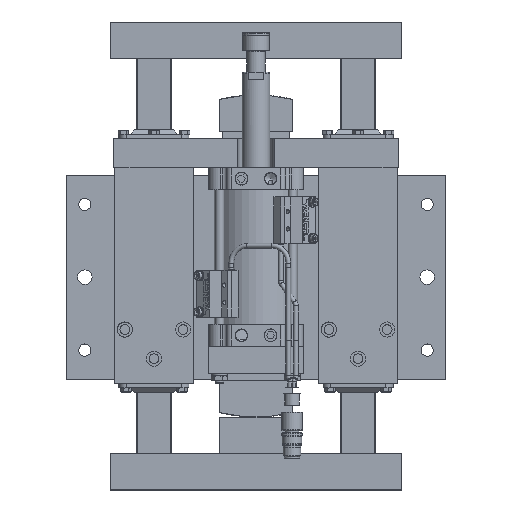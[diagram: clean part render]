
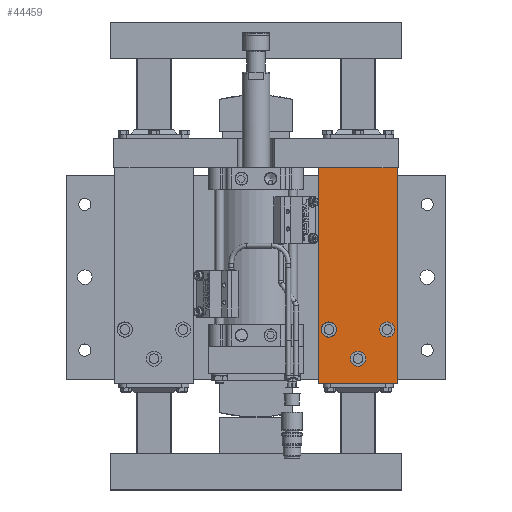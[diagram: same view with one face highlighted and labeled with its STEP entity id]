
A CAD part, top view. The second image highlights one B-rep face of the part: STEP entity #44459.
In plain terms, the highlighted planar face has unit normal (0, 0, 1).
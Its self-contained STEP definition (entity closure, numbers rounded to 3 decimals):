
#1466=FACE_BOUND('',#6656,.T.);
#1467=FACE_BOUND('',#6657,.T.);
#1468=FACE_BOUND('',#6658,.T.);
#2145=PLANE('',#47811);
#3864=FACE_OUTER_BOUND('',#6655,.T.);
#6655=EDGE_LOOP('',(#30916,#30917,#30918,#30919));
#6656=EDGE_LOOP('',(#30920,#30921));
#6657=EDGE_LOOP('',(#30922,#30923));
#6658=EDGE_LOOP('',(#30924,#30925));
#9671=LINE('',#67624,#12958);
#9676=LINE('',#67635,#12963);
#9678=LINE('',#67638,#12965);
#9679=LINE('',#67639,#12966);
#12958=VECTOR('',#54316,10.);
#12963=VECTOR('',#54325,10.);
#12965=VECTOR('',#54329,10.);
#12966=VECTOR('',#54330,10.);
#16239=CIRCLE('',#47661,5.175);
#16240=CIRCLE('',#47662,5.175);
#16243=CIRCLE('',#47667,5.175);
#16244=CIRCLE('',#47668,5.175);
#16247=CIRCLE('',#47673,5.175);
#16248=CIRCLE('',#47674,5.175);
#18787=VERTEX_POINT('',#67310);
#18788=VERTEX_POINT('',#67311);
#18791=VERTEX_POINT('',#67321);
#18792=VERTEX_POINT('',#67322);
#18795=VERTEX_POINT('',#67332);
#18796=VERTEX_POINT('',#67333);
#18899=VERTEX_POINT('',#67617);
#18902=VERTEX_POINT('',#67622);
#18905=VERTEX_POINT('',#67632);
#18906=VERTEX_POINT('',#67634);
#23285=EDGE_CURVE('',#18787,#18788,#16239,.T.);
#23286=EDGE_CURVE('',#18788,#18787,#16240,.T.);
#23290=EDGE_CURVE('',#18791,#18792,#16243,.T.);
#23291=EDGE_CURVE('',#18792,#18791,#16244,.T.);
#23295=EDGE_CURVE('',#18795,#18796,#16247,.T.);
#23296=EDGE_CURVE('',#18796,#18795,#16248,.T.);
#23429=EDGE_CURVE('',#18902,#18899,#9671,.T.);
#23434=EDGE_CURVE('',#18906,#18905,#9676,.T.);
#23436=EDGE_CURVE('',#18905,#18899,#9678,.T.);
#23437=EDGE_CURVE('',#18902,#18906,#9679,.T.);
#30916=ORIENTED_EDGE('',*,*,#23436,.T.);
#30917=ORIENTED_EDGE('',*,*,#23429,.F.);
#30918=ORIENTED_EDGE('',*,*,#23437,.T.);
#30919=ORIENTED_EDGE('',*,*,#23434,.T.);
#30920=ORIENTED_EDGE('',*,*,#23285,.T.);
#30921=ORIENTED_EDGE('',*,*,#23286,.T.);
#30922=ORIENTED_EDGE('',*,*,#23290,.T.);
#30923=ORIENTED_EDGE('',*,*,#23291,.T.);
#30924=ORIENTED_EDGE('',*,*,#23295,.T.);
#30925=ORIENTED_EDGE('',*,*,#23296,.T.);
#44459=ADVANCED_FACE('',(#3864,#1466,#1467,#1468),#2145,.T.);
#47661=AXIS2_PLACEMENT_3D('',#67312,#53970,#53971);
#47662=AXIS2_PLACEMENT_3D('',#67313,#53972,#53973);
#47667=AXIS2_PLACEMENT_3D('',#67323,#53983,#53984);
#47668=AXIS2_PLACEMENT_3D('',#67324,#53985,#53986);
#47673=AXIS2_PLACEMENT_3D('',#67334,#53996,#53997);
#47674=AXIS2_PLACEMENT_3D('',#67335,#53998,#53999);
#47811=AXIS2_PLACEMENT_3D('',#67637,#54327,#54328);
#53970=DIRECTION('center_axis',(0.,0.,
-1.));
#53971=DIRECTION('ref_axis',(-1.,0.,0.));
#53972=DIRECTION('center_axis',(0.,0.,
-1.));
#53973=DIRECTION('ref_axis',(-1.,0.,0.));
#53983=DIRECTION('center_axis',(0.,0.,
-1.));
#53984=DIRECTION('ref_axis',(-1.,0.,0.));
#53985=DIRECTION('center_axis',(0.,0.,
-1.));
#53986=DIRECTION('ref_axis',(-1.,0.,0.));
#53996=DIRECTION('center_axis',(0.,0.,
-1.));
#53997=DIRECTION('ref_axis',(-1.,0.,0.));
#53998=DIRECTION('center_axis',(0.,0.,
-1.));
#53999=DIRECTION('ref_axis',(-1.,0.,0.));
#54316=DIRECTION('',(0.,-1.,0.));
#54325=DIRECTION('',(0.,-1.,0.));
#54327=DIRECTION('center_axis',(0.,0.,
1.));
#54328=DIRECTION('ref_axis',(-1.,0.,0.));
#54329=DIRECTION('',(1.,0.,0.));
#54330=DIRECTION('',(-1.,0.,0.));
#67310=CARTESIAN_POINT('',(84.825,-36.,61.));
#67311=CARTESIAN_POINT('',(95.175,-36.,61.));
#67312=CARTESIAN_POINT('Origin',(90.,-36.,61.));
#67313=CARTESIAN_POINT('Origin',(90.,-36.,61.));
#67321=CARTESIAN_POINT('',(64.825,-56.,61.));
#67322=CARTESIAN_POINT('',(75.175,-56.,61.));
#67323=CARTESIAN_POINT('Origin',(70.,-56.,61.));
#67324=CARTESIAN_POINT('Origin',(70.,-56.,61.));
#67332=CARTESIAN_POINT('',(44.825,-36.,61.));
#67333=CARTESIAN_POINT('',(55.175,-36.,61.));
#67334=CARTESIAN_POINT('Origin',(50.,-36.,61.));
#67335=CARTESIAN_POINT('Origin',(50.,-36.,61.));
#67617=CARTESIAN_POINT('',(97.,-73.,61.));
#67622=CARTESIAN_POINT('',(97.,75.,61.));
#67624=CARTESIAN_POINT('',(97.,75.,61.));
#67632=CARTESIAN_POINT('',(43.,-73.,61.));
#67634=CARTESIAN_POINT('',(43.,75.,61.));
#67635=CARTESIAN_POINT('',(43.,75.,61.));
#67637=CARTESIAN_POINT('Origin',(43.,75.,61.));
#67638=CARTESIAN_POINT('',(97.,-73.,61.));
#67639=CARTESIAN_POINT('',(97.,75.,61.));
